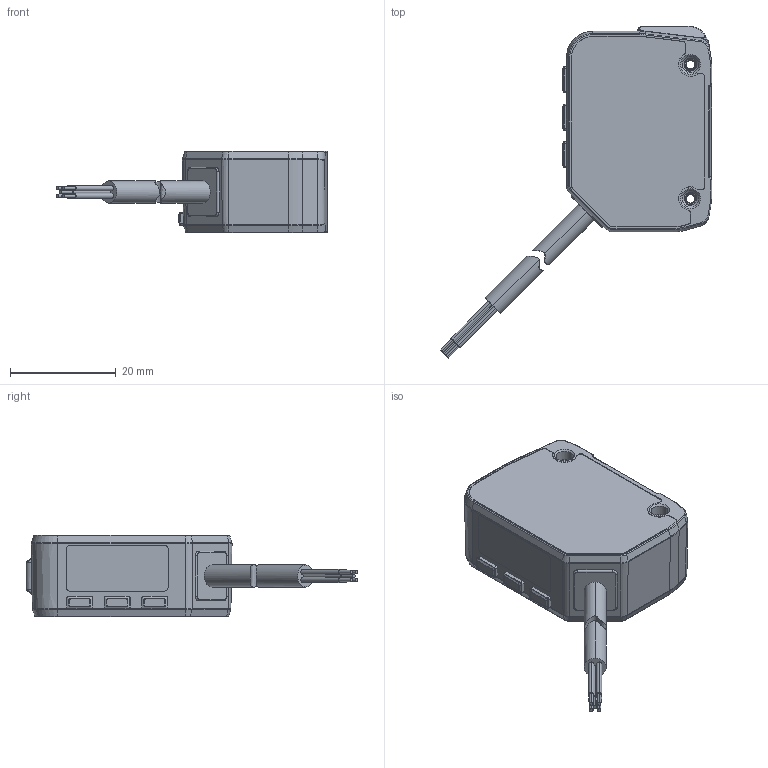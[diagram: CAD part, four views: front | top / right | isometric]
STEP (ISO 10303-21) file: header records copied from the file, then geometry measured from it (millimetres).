
FILE_DESCRIPTION((''),'2;1');
FILE_NAME('CMOS_128_ASM','2022-08-09T09:43:09',('HP'),(''),'CREO PARAMETRIC BY PTC INC, 2019224','CREO PARAMETRIC BY PTC INC, 2019224','');
FILE_SCHEMA(('CONFIG_CONTROL_DESIGN','SHAPE_APPEARANCE_LAYERS_GROUPS'));
Length unit declared in the file: millimetre
Products named in the file (8): YG-J3-A0601; YG-J3-A0602; YG-J3-A0607; YG-J3-A0615; YG-J3-A0613; YG-J3-A0618; YG-J3-A0617; CMOS_128_ASM
Assembly tree (9 placements, depth 2):
  CMOS_128_ASM
    YG-J3-A0601
    YG-J3-A0602
    YG-J3-A0607  x3
    YG-J3-A0615
    YG-J3-A0613
    YG-J3-A0618
    YG-J3-A0617
Bounding box: 51.34 x 62.84 x 15.5 mm (x, y, z)
Volume: 15938.6 mm3; surface area: 8498.1 mm2
Topology: 10 solids, 13 shells, 1103 faces, 2764 edges, 1734 vertices
Faces by surface type: plane 540, cylinder 324, bspline 138, cone 47, torus 32, sphere 20, extrusion 2
Entity records: 48044 total; most frequent: CARTESIAN_POINT 16270, ORIENTED_EDGE 4668, DIRECTION 4124, PRESENTATION_STYLE_ASSIGNMENT 2633, STYLED_ITEM 2572, EDGE_CURVE 2334, CURVE_STYLE 2119, VERTEX_POINT 1474
